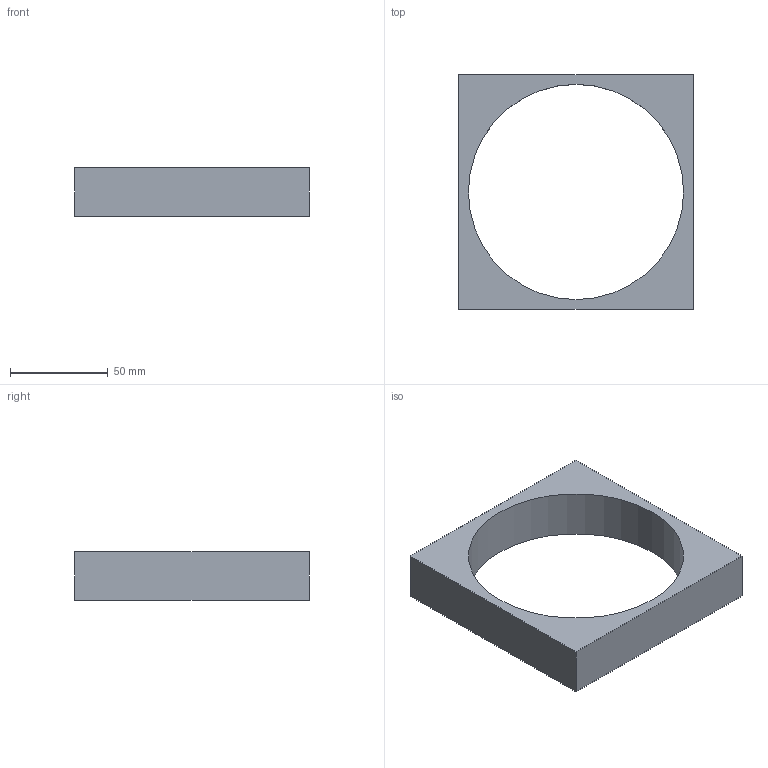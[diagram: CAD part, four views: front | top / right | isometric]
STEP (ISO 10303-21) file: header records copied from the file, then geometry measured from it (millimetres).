
FILE_DESCRIPTION(('Open CASCADE Model'),'2;1');
FILE_NAME('Open CASCADE Shape Model','2026-10-16T18:52:00',('Author'),( 'Open CASCADE'),'Open CASCADE STEP processor 7.8','Open CASCADE 7.8' ,'Unknown');
FILE_SCHEMA(('AUTOMOTIVE_DESIGN { 1 0 10303 214 1 1 1 1 }'));
Length unit declared in the file: millimetre
Products named in the file (1): Open CASCADE STEP translator 7.8 13
Bounding box: 120 x 120 x 25 mm (x, y, z)
Volume: 122417.1 mm3; surface area: 30432.7 mm2
Topology: 1 solids, 1 shells, 7 faces, 15 edges, 10 vertices
Faces by surface type: plane 6, cylinder 1
Full cylindrical faces by diameter (mm): 110 x1
Entity records: 406 total; most frequent: CARTESIAN_POINT 75, DIRECTION 61, LINE 41, VECTOR 41, ORIENTED_EDGE 30, PCURVE 30, DEFINITIONAL_REPRESENTATION 30, EDGE_CURVE 15
